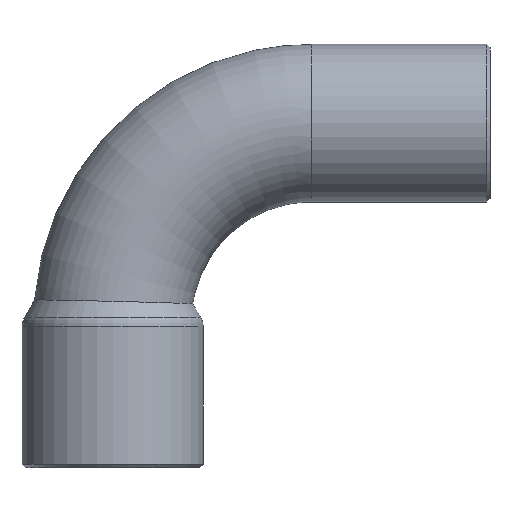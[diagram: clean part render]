
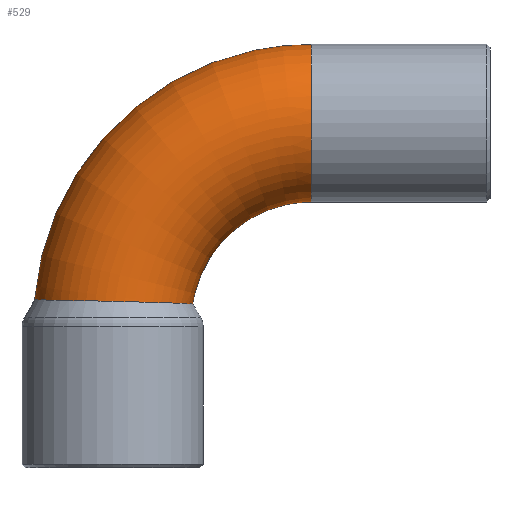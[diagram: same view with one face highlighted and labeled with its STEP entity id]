
A CAD part, left-side view. The second image highlights one B-rep face of the part: STEP entity #529.
In plain terms, the highlighted toroidal (fillet/blend) face has major radius 12 mm and minor radius 4.76 mm.
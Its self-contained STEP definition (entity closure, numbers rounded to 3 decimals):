
#292=CARTESIAN_POINT('',(4.76,0.,12.));
#293=VERTEX_POINT('',#292);
#294=CARTESIAN_POINT('',(0.0,0.,12.));
#295=DIRECTION('',(0.0,1.0,0.0));
#296=DIRECTION('',(-1.0,0.0,0.0));
#297=AXIS2_PLACEMENT_3D('',#294,#295,#296);
#298=CIRCLE('',#297,4.76);
#299=EDGE_CURVE('',#293,#293,#298,.T.);
#380=CARTESIAN_POINT('',(0.,16.707,1.334));
#381=VERTEX_POINT('',#380);
#382=CARTESIAN_POINT('',(0.,16.707,1.334));
#383=CARTESIAN_POINT('',(-0.456,16.707,1.334));
#384=CARTESIAN_POINT('',(-0.909,16.641,1.333));
#385=CARTESIAN_POINT('',(-1.77,16.387,1.329));
#386=CARTESIAN_POINT('',(-2.175,16.203,1.326));
#387=CARTESIAN_POINT('',(-3.08,15.628,1.316));
#388=CARTESIAN_POINT('',(-3.54,15.188,1.308));
#389=CARTESIAN_POINT('',(-4.261,14.154,1.289));
#390=CARTESIAN_POINT('',(-4.516,13.57,1.278));
#391=CARTESIAN_POINT('',(-4.785,12.336,1.251));
#392=CARTESIAN_POINT('',(-4.796,11.698,1.236));
#393=CARTESIAN_POINT('',(-4.567,10.446,1.205));
#394=CARTESIAN_POINT('',(-4.327,9.846,1.188));
#395=CARTESIAN_POINT('',(-3.653,8.816,1.157));
#396=CARTESIAN_POINT('',(-3.241,8.387,1.142));
#397=CARTESIAN_POINT('',(-2.247,7.676,1.117));
#398=CARTESIAN_POINT('',(-1.666,7.414,1.107));
#399=CARTESIAN_POINT('',(-0.738,7.203,1.099));
#400=CARTESIAN_POINT('',(-0.419,7.164,1.098));
#401=CARTESIAN_POINT('',(0.203,7.151,1.097));
#402=CARTESIAN_POINT('',(0.505,7.174,1.098));
#403=CARTESIAN_POINT('',(1.309,7.312,1.103));
#404=CARTESIAN_POINT('',(1.798,7.481,1.11));
#405=CARTESIAN_POINT('',(2.804,8.024,1.13));
#406=CARTESIAN_POINT('',(3.294,8.429,1.144));
#407=CARTESIAN_POINT('',(4.072,9.389,1.174));
#408=CARTESIAN_POINT('',(4.361,9.929,1.19));
#409=CARTESIAN_POINT('',(4.718,11.07,1.221));
#410=CARTESIAN_POINT('',(4.788,11.66,1.235));
#411=CARTESIAN_POINT('',(4.711,12.834,1.262));
#412=CARTESIAN_POINT('',(4.566,13.408,1.274));
#413=CARTESIAN_POINT('',(4.071,14.479,1.295));
#414=CARTESIAN_POINT('',(3.724,14.966,1.304));
#415=CARTESIAN_POINT('',(2.863,15.796,1.319));
#416=CARTESIAN_POINT('',(2.353,16.127,1.325));
#417=CARTESIAN_POINT('',(1.225,16.587,1.332));
#418=CARTESIAN_POINT('',(0.615,16.707,1.334));
#419=CARTESIAN_POINT('',(0.,16.707,1.334));
#420=B_SPLINE_CURVE_WITH_KNOTS('',3,(#382,#383,#384,#385,#386,#387,#388,#389,#390,#391,#392,#393,#394,#395,#396,#397,#398,#399,#400,#401,#402,#403,#404,#405,#406,#407,#408,#409,#410,#411,#412,#413,#414,#415,#416,#417,#418,#419),.UNSPECIFIED.,.T.,.U.,(4,2,2,2,2,2,2,2,2,2,2,2,2,2,2,2,2,2,4),(-3.004,-2.867,-2.735,-2.546,-2.356,-2.167,-1.975,-1.797,-1.608,-1.512,-1.421,-1.267,-1.078,-0.896,-0.719,-0.543,-0.365,-0.185,0.0),.UNSPECIFIED.);
#421=EDGE_CURVE('',#381,#381,#420,.T.);
#518=CARTESIAN_POINT('',(0.0,0.0,0.0));
#519=DIRECTION('',(1.0,0.0,0.0));
#520=DIRECTION('',(0.0,0.0,-1.0));
#521=AXIS2_PLACEMENT_3D('',#518,#519,#520);
#522=TOROIDAL_SURFACE('',#521,12.,4.76);
#523=ORIENTED_EDGE('',*,*,#299,.T.);
#524=EDGE_LOOP('',(#523));
#525=FACE_OUTER_BOUND('',#524,.T.);
#526=ORIENTED_EDGE('',*,*,#421,.T.);
#527=EDGE_LOOP('',(#526));
#528=FACE_BOUND('',#527,.T.);
#529=ADVANCED_FACE('',(#525,#528),#522,.T.);
